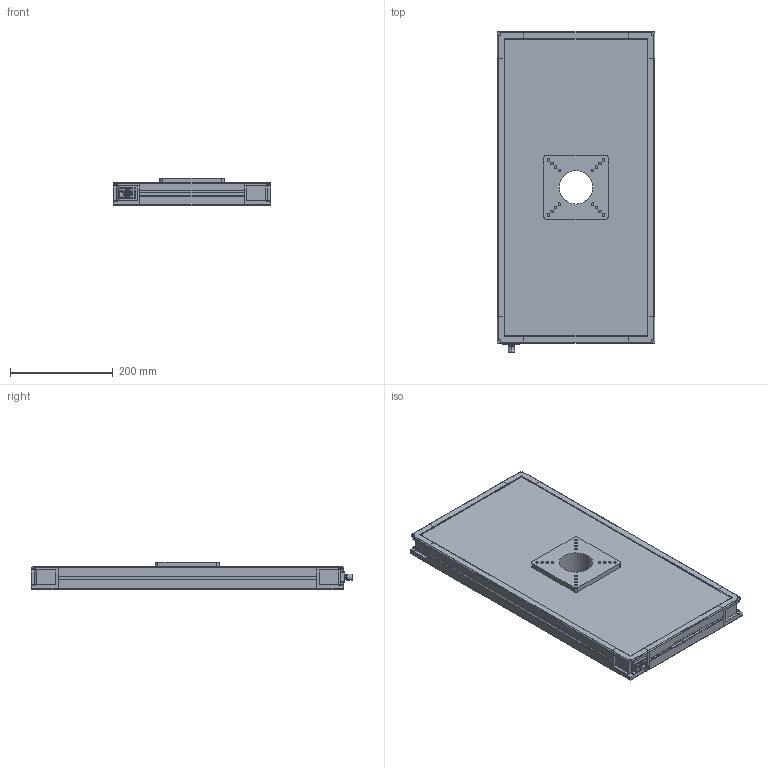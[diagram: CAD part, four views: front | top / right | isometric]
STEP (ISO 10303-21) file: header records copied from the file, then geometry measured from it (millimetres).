
FILE_DESCRIPTION (( 'STEP AP214' ), '1' );
FILE_NAME ('FLOOD-6030.STEP', '2019-06-27T09:58:52', ( '' ), ( '' ), 'SwSTEP 2.0', 'SolidWorks 2014', '' );
FILE_SCHEMA (( 'AUTOMOTIVE_DESIGN' ));
Length unit declared in the file: millimetre
Products named in the file (1): FLOOD-6030
Bounding box: 308 x 626 x 54 mm (x, y, z)
Volume: 7760316.9 mm3; surface area: 507254.5 mm2
Topology: 1 solids, 4 shells, 941 faces, 2575 edges, 1690 vertices
Faces by surface type: plane 521, cylinder 312, bspline 70, cone 33, torus 5
Entity records: 39200 total; most frequent: CARTESIAN_POINT 10139, ORIENTED_EDGE 5110, DIRECTION 4462, EDGE_CURVE 2555, VERTEX_POINT 1690, VECTOR 1592, LINE 1592, AXIS2_PLACEMENT_3D 1435
